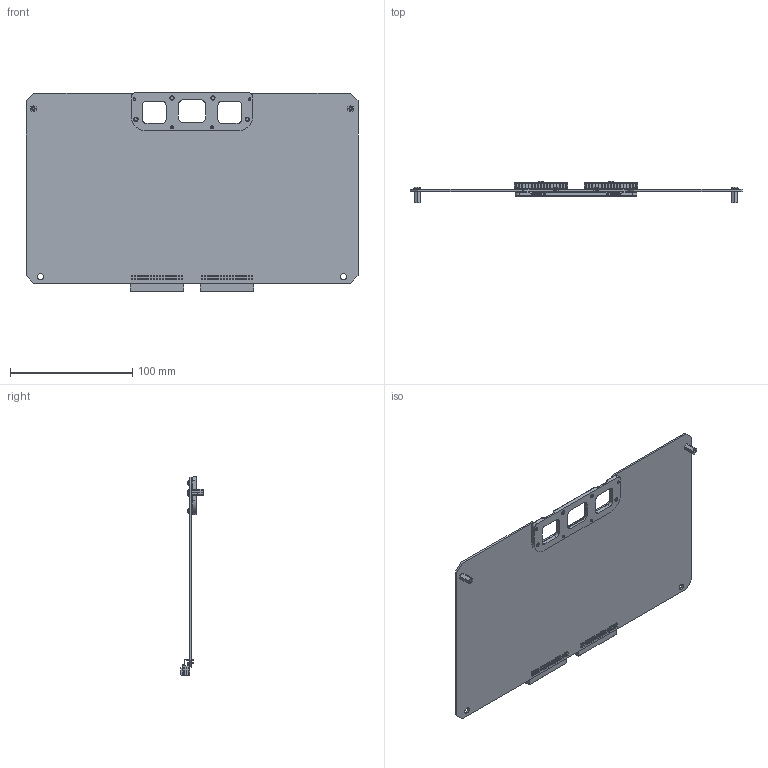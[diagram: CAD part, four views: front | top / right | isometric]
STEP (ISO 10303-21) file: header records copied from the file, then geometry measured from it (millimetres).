
FILE_DESCRIPTION((''),'2;1');
FILE_NAME('CCA_MXP_MIDSZ_06_ASM','2016-08-01T',('llai'),(''),'CREO PARAMETRIC BY PTC INC, 2015380','CREO PARAMETRIC BY PTC INC, 2015380','');
FILE_SCHEMA(('CONFIG_CONTROL_DESIGN'));
Length unit declared in the file: inch
Products named in the file (7): PCB_MXP_MIDSZ_06; CONN_RCPT_2X17_RA_TH_KEY; PNH_PHIL_440X0250_SS; STANDOFF_HEX_F-F_SS_4-40; CLIP_MXP_ADAPTER_15A_DRAFTED; SCREW_2-28X188_PLASTITE_PNH_PHL; CCA_MXP_MIDSZ_06_ASM
Assembly tree (12 placements, depth 2):
  CCA_MXP_MIDSZ_06_ASM
    PCB_MXP_MIDSZ_06
    CONN_RCPT_2X17_RA_TH_KEY  x2
    PNH_PHIL_440X0250_SS  x2
    STANDOFF_HEX_F-F_SS_4-40  x2
    CLIP_MXP_ADAPTER_15A_DRAFTED
    SCREW_2-28X188_PLASTITE_PNH_PHL  x4
Bounding box: 271.14 x 18.2 x 161.86 mm (x, y, z)
Volume: 73610.2 mm3; surface area: 93880.9 mm2
Topology: 12 solids, 14 shells, 2296 faces, 5838 edges, 3674 vertices
Faces by surface type: plane 1462, cylinder 514, bspline 164, cone 104, torus 36, sphere 16
Entity records: 43382 total; most frequent: CARTESIAN_POINT 12799, ORIENTED_EDGE 6348, DIRECTION 6068, EDGE_CURVE 3176, VECTOR 2192, LINE 2192, VERTEX_POINT 2025, AXIS2_PLACEMENT_3D 1938
